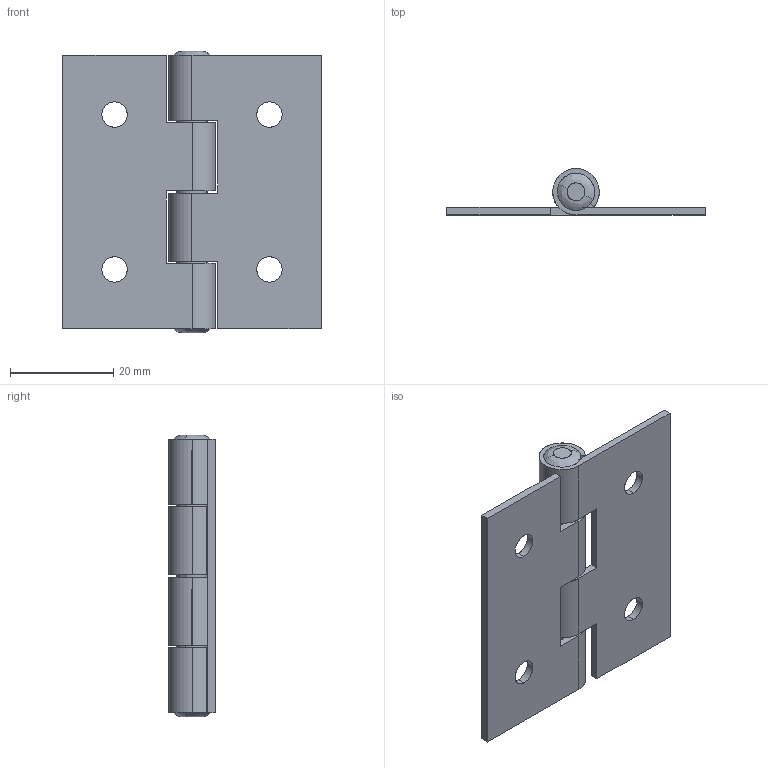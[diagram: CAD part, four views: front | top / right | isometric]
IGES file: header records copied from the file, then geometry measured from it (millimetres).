
Start section: SolidWorks IGES file using analytic representation for surfaces
Global section: file name: Z:\Mes documents\ATAO iges\Gamme CL\CL 428\CL 428.IGS; native system: SolidWorks 2008; preprocessor: SolidWorks 2008; author: cbrechard; date: 110628.182841; units: millimetre
Bounding box: 50 x 9 x 54.6 mm (x, y, z)
Surface area: 8658 mm2 (no closed solid volume)
Topology: 0 solids, 0 shells, 66 faces, 1168 edges, 1168 vertices
Faces by surface type: revolution 34, bspline 32
